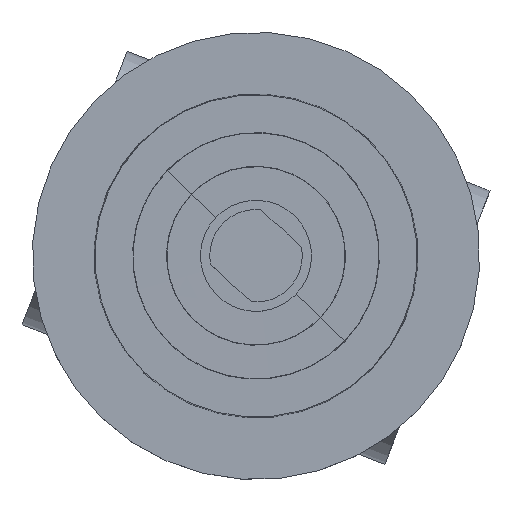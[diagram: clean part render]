
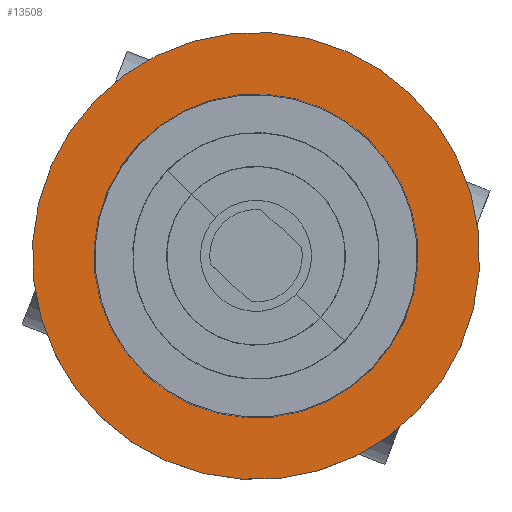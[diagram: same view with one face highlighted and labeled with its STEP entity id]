
A CAD part, top view. The second image highlights one B-rep face of the part: STEP entity #13508.
In plain terms, the highlighted planar face has unit normal (0, 0, 1).
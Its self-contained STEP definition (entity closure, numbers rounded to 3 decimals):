
#176 = EDGE_LOOP ( 'NONE', ( #12683, #3551 ) ) ;
#632 = FACE_OUTER_BOUND ( 'NONE', #13109, .T. ) ;
#1659 = VERTEX_POINT ( 'NONE', #15635 ) ;
#1844 = DIRECTION ( 'NONE',  ( 0., -1., 0. ) ) ;
#1932 = DIRECTION ( 'NONE',  ( 0., 0., -1. ) ) ;
#2024 = FACE_BOUND ( 'NONE', #176, .T. ) ;
#2192 = CARTESIAN_POINT ( 'NONE',  ( 39.446, -31.492, 6.099 ) ) ;
#2334 = CARTESIAN_POINT ( 'NONE',  ( -36.442, 41.125, 6.099 ) ) ;
#2829 = EDGE_CURVE ( 'NONE', #14661, #16009, #3472, .T. ) ;
#3422 = CARTESIAN_POINT ( 'NONE',  ( 53.884, -45.308, 6.099 ) ) ;
#3472 = CIRCLE ( 'NONE', #9962, 52.517 ) ;
#3513 = AXIS2_PLACEMENT_3D ( 'NONE', #9575, #12245, #6810 ) ;
#3551 = ORIENTED_EDGE ( 'NONE', *, *, #11258, .T. ) ;
#4556 = DIRECTION ( 'NONE',  ( -0.574, 0.819, 0. ) ) ;
#4938 = CARTESIAN_POINT ( 'NONE',  ( 1.502, 4.816, 6.099 ) ) ;
#4939 = VERTEX_POINT ( 'NONE', #3422 ) ;
#5295 = EDGE_CURVE ( 'NONE', #4939, #1659, #11485, .T. ) ;
#5958 = EDGE_CURVE ( 'NONE', #1659, #4939, #12941, .T. ) ;
#6810 = DIRECTION ( 'NONE',  ( -0.574, 0.819, 0. ) ) ;
#7106 = CIRCLE ( 'NONE', #17134, 52.517 ) ;
#7795 = DIRECTION ( 'NONE',  ( 0., 0., -1. ) ) ;
#8291 = AXIS2_PLACEMENT_3D ( 'NONE', #9232, #1932, #1844 ) ;
#8618 = DIRECTION ( 'NONE',  ( 0., 0., -1. ) ) ;
#9136 = PLANE ( 'NONE',  #8291 ) ;
#9232 = CARTESIAN_POINT ( 'NONE',  ( 1.502, 4.816, 6.099 ) ) ;
#9575 = CARTESIAN_POINT ( 'NONE',  ( 1.502, 4.816, 6.099 ) ) ;
#9839 = DIRECTION ( 'NONE',  ( 0., 0., -1. ) ) ;
#9962 = AXIS2_PLACEMENT_3D ( 'NONE', #11134, #9839, #17985 ) ;
#11134 = CARTESIAN_POINT ( 'NONE',  ( 1.502, 4.816, 6.099 ) ) ;
#11258 = EDGE_CURVE ( 'NONE', #16009, #14661, #7106, .T. ) ;
#11485 = CIRCLE ( 'NONE', #3513, 72.5 ) ;
#12245 = DIRECTION ( 'NONE',  ( 0., 0., -1. ) ) ;
#12683 = ORIENTED_EDGE ( 'NONE', *, *, #2829, .T. ) ;
#12941 = CIRCLE ( 'NONE', #14434, 72.5 ) ;
#13109 = EDGE_LOOP ( 'NONE', ( #17103, #13293 ) ) ;
#13151 = DIRECTION ( 'NONE',  ( -0.574, 0.819, 0. ) ) ;
#13293 = ORIENTED_EDGE ( 'NONE', *, *, #5295, .F. ) ;
#13508 = ADVANCED_FACE ( 'NONE', ( #2024, #632 ), #9136, .F. ) ;
#14358 = CARTESIAN_POINT ( 'NONE',  ( 1.502, 4.816, 6.099 ) ) ;
#14434 = AXIS2_PLACEMENT_3D ( 'NONE', #4938, #7795, #13151 ) ;
#14661 = VERTEX_POINT ( 'NONE', #2192 ) ;
#15635 = CARTESIAN_POINT ( 'NONE',  ( -50.879, 54.941, 6.099 ) ) ;
#16009 = VERTEX_POINT ( 'NONE', #2334 ) ;
#17103 = ORIENTED_EDGE ( 'NONE', *, *, #5958, .F. ) ;
#17134 = AXIS2_PLACEMENT_3D ( 'NONE', #14358, #8618, #4556 ) ;
#17985 = DIRECTION ( 'NONE',  ( -0.574, 0.819, 0. ) ) ;
